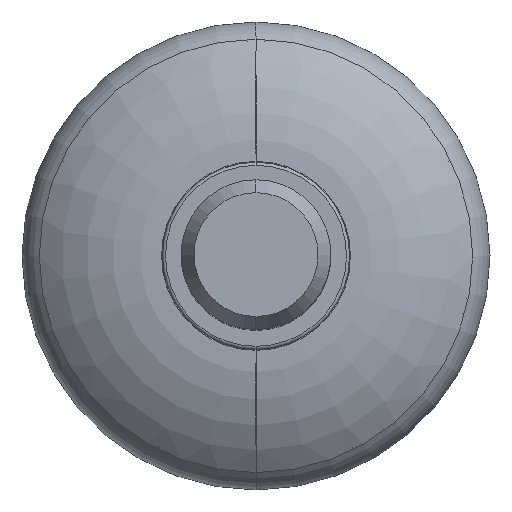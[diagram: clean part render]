
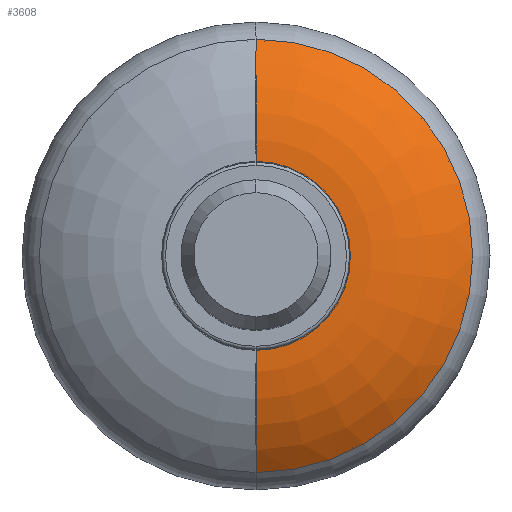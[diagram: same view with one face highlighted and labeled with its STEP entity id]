
A CAD part, top view. The second image highlights one B-rep face of the part: STEP entity #3608.
In plain terms, the highlighted toroidal (fillet/blend) face has major radius 15.132 mm and minor radius 30 mm.
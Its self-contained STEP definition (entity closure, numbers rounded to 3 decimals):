
#122 = CIRCLE ( 'NONE', #3051, 14.159 ) ;
#220 = CARTESIAN_POINT ( 'NONE',  ( 0., -14.159, -2.016 ) ) ;
#383 = CARTESIAN_POINT ( 'NONE',  ( 0., -34.719, -9.277 ) ) ;
#431 = AXIS2_PLACEMENT_3D ( 'NONE', #1167, #4347, #2345 ) ;
#562 = TOROIDAL_SURFACE ( 'NONE', #4514, 15.132, 30. ) ;
#669 = CIRCLE ( 'NONE', #431, 30. ) ;
#675 = AXIS2_PLACEMENT_3D ( 'NONE', #4917, #1399, #4055 ) ;
#921 = CARTESIAN_POINT ( 'NONE',  ( 0., 0., -32. ) ) ;
#1167 = CARTESIAN_POINT ( 'NONE',  ( 0., 15.132, -32. ) ) ;
#1232 = AXIS2_PLACEMENT_3D ( 'NONE', #2580, #4161, #1330 ) ;
#1330 = DIRECTION ( 'NONE',  ( 0., 1., 0. ) ) ;
#1399 = DIRECTION ( 'NONE',  ( -1., 0., 0. ) ) ;
#1572 = CIRCLE ( 'NONE', #1232, 34.719 ) ;
#1984 = DIRECTION ( 'NONE',  ( 0., 0., -1. ) ) ;
#1985 = CIRCLE ( 'NONE', #675, 30. ) ;
#2007 = EDGE_LOOP ( 'NONE', ( #2431, #4144, #4435, #4503 ) ) ;
#2173 = EDGE_CURVE ( 'NONE', #3951, #3890, #1985, .T. ) ;
#2345 = DIRECTION ( 'NONE',  ( 0., 1., 0. ) ) ;
#2431 = ORIENTED_EDGE ( 'NONE', *, *, #4279, .F. ) ;
#2459 = FACE_OUTER_BOUND ( 'NONE', #2007, .T. ) ;
#2580 = CARTESIAN_POINT ( 'NONE',  ( 0., 0., -9.277 ) ) ;
#2925 = CARTESIAN_POINT ( 'NONE',  ( 0., 14.159, -2.016 ) ) ;
#3051 = AXIS2_PLACEMENT_3D ( 'NONE', #3596, #1984, #3232 ) ;
#3232 = DIRECTION ( 'NONE',  ( 0., 1., 0. ) ) ;
#3306 = DIRECTION ( 'NONE',  ( 0., 0., -1. ) ) ;
#3314 = EDGE_CURVE ( 'NONE', #3876, #3890, #122, .T. ) ;
#3596 = CARTESIAN_POINT ( 'NONE',  ( 0., 0., -2.016 ) ) ;
#3608 = ADVANCED_FACE ( 'NONE', ( #2459 ), #562, .T. ) ;
#3611 = DIRECTION ( 'NONE',  ( 0., 1., 0. ) ) ;
#3688 = CARTESIAN_POINT ( 'NONE',  ( 0., 34.719, -9.277 ) ) ;
#3876 = VERTEX_POINT ( 'NONE', #2925 ) ;
#3887 = VERTEX_POINT ( 'NONE', #3688 ) ;
#3890 = VERTEX_POINT ( 'NONE', #220 ) ;
#3951 = VERTEX_POINT ( 'NONE', #383 ) ;
#4055 = DIRECTION ( 'NONE',  ( 0., -1., 0. ) ) ;
#4144 = ORIENTED_EDGE ( 'NONE', *, *, #3314, .T. ) ;
#4161 = DIRECTION ( 'NONE',  ( 0., 0., -1. ) ) ;
#4279 = EDGE_CURVE ( 'NONE', #3876, #3887, #669, .T. ) ;
#4347 = DIRECTION ( 'NONE',  ( -1., 0., 0. ) ) ;
#4435 = ORIENTED_EDGE ( 'NONE', *, *, #2173, .F. ) ;
#4503 = ORIENTED_EDGE ( 'NONE', *, *, #4935, .F. ) ;
#4514 = AXIS2_PLACEMENT_3D ( 'NONE', #921, #3306, #3611 ) ;
#4917 = CARTESIAN_POINT ( 'NONE',  ( 0., -15.132, -32. ) ) ;
#4935 = EDGE_CURVE ( 'NONE', #3887, #3951, #1572, .T. ) ;
